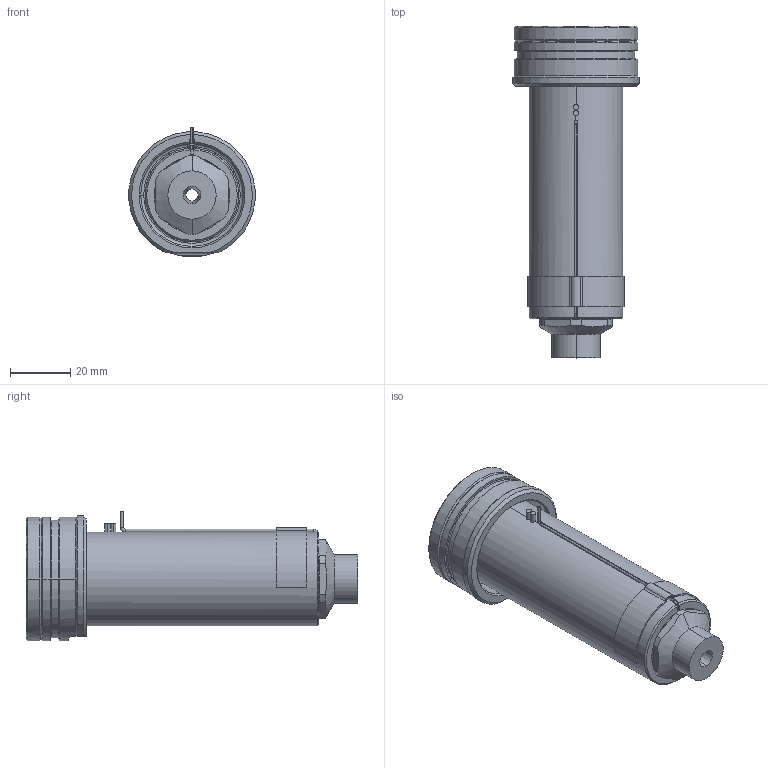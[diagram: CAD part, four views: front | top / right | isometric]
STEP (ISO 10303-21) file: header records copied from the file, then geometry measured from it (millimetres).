
FILE_DESCRIPTION((''),'2;1');
FILE_NAME('EO12_VG-ST_STD_090_SW','2024-02-19T12:50:11',('sundharh'),(''),'CREO PARAMETRIC BY PTC INC, 2023154','CREO PARAMETRIC BY PTC INC, 2023154','');
FILE_SCHEMA(('CONFIG_CONTROL_DESIGN'));
Length unit declared in the file: millimetre
Products named in the file (1): EO12_VG-ST_STD_090_SW
Bounding box: 41.85 x 110 x 43 mm (x, y, z)
Volume: 74826.3 mm3; surface area: 21488.6 mm2
Topology: 2 solids, 3 shells, 182 faces, 463 edges, 284 vertices
Faces by surface type: cylinder 65, plane 46, cone 37, torus 27, bspline 5, sphere 2
Entity records: 6247 total; most frequent: CARTESIAN_POINT 1740, DIRECTION 994, ORIENTED_EDGE 922, EDGE_CURVE 461, AXIS2_PLACEMENT_3D 415, VERTEX_POINT 284, CIRCLE 238, EDGE_LOOP 197
